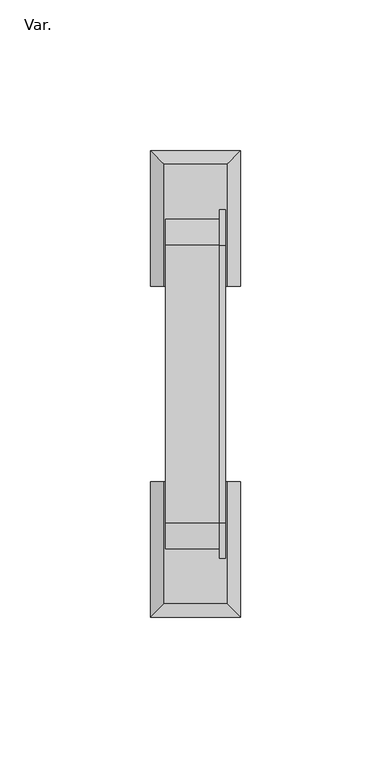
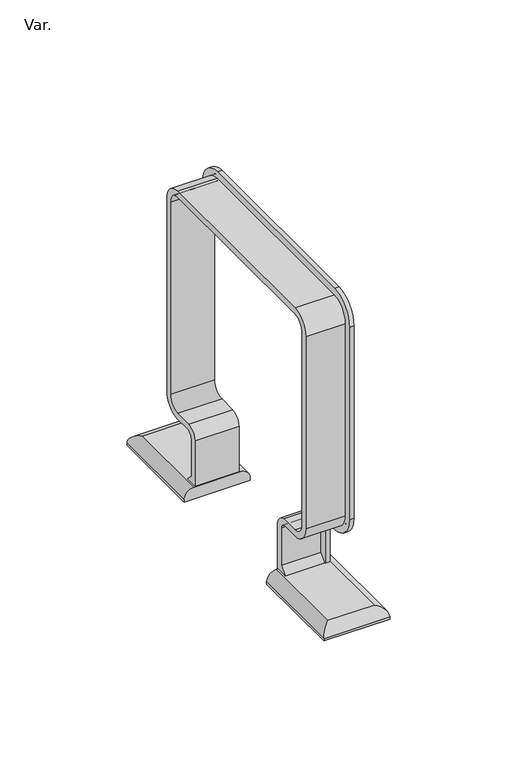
"""IFC4 building model written with IfcOpenShell, lengths in millimetres: pipe fitting geometry, PavcoWavin_UnionesDeTuberia_ZBajante Rainmax_Soporte_NoUsarUnion : Var.."""

from ifc_helpers import new_model, si_unit, point, frame, frame_2d, origin, place, context, project, spatial, polyline, circle_curve, ellipse_curve, trimmed, segment, composite_curve, outline, extrude, source, transform, mapped, element, save
from ifc_brep_helpers import plane_surface, cylinder_surface, advanced_brep


def var_3e40efbc(model_context):
    return source(origin(), model_context, "Body", "SolidModel", [
        advanced_brep(
        [(25.0, 32.5, -84.425), (25.0, 77.5, -84.425), (25.0, 77.5, -83.425), (25.0, 32.5, -83.425), (-5.0, 77.5, -83.425), (-5.0, 77.5, -84.425), (-5.0, 32.5, -84.425), (-5.0, 32.5, -83.425), (20.5, 73.0, -78.925), (-0.5, 73.0, -78.925), (-0.5, 32.5, -78.925), (20.5, 32.5, -78.925)],
        [
            (0, 1),
            (1, 2),
            (2, 3),
            (3, 0),
            (4, 5),
            (5, 6),
            (6, 7),
            (7, 4),
            (8, 9),
            (9, 10),
            (10, 11),
            (11, 8),
            (6, 0),
            (3, 11, circle_curve(frame((20.5, 32.5, -83.425), z_axis=(0.0, -1.0, 0.0), x_axis=(-1.0, 0.0, 0.0)), 4.5)),
            (10, 7, circle_curve(frame((-0.5, 32.5, -83.425), z_axis=(0.0, -1.0, 0.0), x_axis=(1.0, 0.0, 0.0)), 4.5)),
            (5, 1),
            (2, 8, ellipse_curve(frame((20.5, 73.0, -83.425), z_axis=(0.7071067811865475, -0.7071067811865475, 0.0), x_axis=(0.7071067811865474, 0.7071067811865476, 0.0)), 6.363961, 4.5)),
            (9, 4, ellipse_curve(frame((-0.5, 73.0, -83.425), z_axis=(-0.7071067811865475, -0.7071067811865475, 0.0), x_axis=(-0.7071067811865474, 0.7071067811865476, 0.0)), 6.363961, 4.5)),
            (4, 2),
        ],
        [
            plane_surface(frame((25.0, 32.5, -78.925), z_axis=(1.0, 0.0, 0.0), x_axis=(0.0, -1.0, 0.0))),
            plane_surface(frame((-5.0, 32.5, -78.925), z_axis=(-1.0, 0.0, 0.0), x_axis=(0.0, 1.0, 0.0))),
            plane_surface(frame((25.0, 73.0, -78.925), z_axis=(0.0, 0.0, 1.0), x_axis=(-1.0, 0.0, 0.0))),
            plane_surface(frame((25.0, 32.5, -78.925), z_axis=(0.0, -1.0, 0.0), x_axis=(-1.0, 0.0, 0.0))),
            plane_surface(frame((25.0, 32.5, -84.425), z_axis=(0.0, 0.0, -1.0), x_axis=(-1.0, 0.0, 0.0))),
            cylinder_surface(frame((20.5, 77.5, -83.425), z_axis=(0.0, 1.0, 0.0), x_axis=(-1.0, 0.0, 0.0)), 4.5),
            cylinder_surface(frame((-0.5, 0.0, -83.425), z_axis=(0.0, 1.0, 0.0), x_axis=(1.0, 0.0, 0.0)), 4.5),
            plane_surface(frame((25.0, 77.5, -84.425), z_axis=(0.0, 1.0, 0.0), x_axis=(-1.0, 0.0, 0.0))),
            cylinder_surface(frame((-5.0, 73.0, -83.425), z_axis=(1.0, 0.0, 0.0), x_axis=(0.0, -1.0, 0.0)), 4.5),
        ],
        [
            (0, [[1, 2, 3, 4]]),
            (1, [[5, 6, 7, 8]]),
            (2, [[9, 10, 11, 12]]),
            (3, [[13, -4, 14, -11, 15, -7]]),
            (4, [[-1, -13, -6, 16]]),
            (5, [[-3, 17, -12, -14]]),
            (6, [[-8, -15, -10, 18]]),
            (7, [[-2, -16, -5, 19]]),
            (8, [[-19, -18, -9, -17]]),
        ],
    ),
        advanced_brep(
        [(25.0, -77.5, -83.425), (25.0, -77.5, -84.425), (25.0, -32.5, -84.425), (25.0, -32.5, -83.425), (-5.0, -32.5, -84.425), (-5.0, -77.5, -84.425), (-5.0, -77.5, -83.425), (-5.0, -32.5, -83.425), (20.5, -73.0, -78.925), (-0.5, -73.0, -78.925), (-0.5, -32.5, -78.925), (20.5, -32.5, -78.925)],
        [
            (0, 1),
            (1, 2),
            (2, 3),
            (3, 0),
            (4, 5),
            (5, 6),
            (6, 7),
            (7, 4),
            (6, 0),
            (0, 8, ellipse_curve(frame((20.5, -73.0, -83.425), z_axis=(-0.7071067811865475, -0.7071067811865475, 0.0), x_axis=(0.7071067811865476, -0.7071067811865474, 0.0)), 6.363961, 4.5)),
            (8, 9),
            (9, 6, ellipse_curve(frame((-0.5, -73.0, -83.425), z_axis=(0.7071067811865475, -0.7071067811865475, 0.0), x_axis=(0.7071067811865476, 0.7071067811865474, 0.0)), 6.363961, 4.5)),
            (5, 1),
            (4, 2),
            (7, 10, circle_curve(frame((-0.5, -32.5, -83.425), z_axis=(0.0, 1.0, 0.0), x_axis=(1.0, 0.0, 0.0)), 4.5)),
            (10, 11),
            (11, 3, circle_curve(frame((20.5, -32.5, -83.425), z_axis=(0.0, 1.0, 0.0), x_axis=(-1.0, 0.0, 0.0)), 4.5)),
            (8, 11),
            (10, 9),
        ],
        [
            plane_surface(frame((25.0, 32.5, -78.925), z_axis=(1.0, 0.0, 0.0), x_axis=(0.0, -1.0, 0.0))),
            plane_surface(frame((-5.0, 32.5, -78.925), z_axis=(-1.0, 0.0, 0.0), x_axis=(0.0, 1.0, 0.0))),
            cylinder_surface(frame((0.0, -73.0, -83.425), z_axis=(1.0, 0.0, 0.0), x_axis=(0.0, 1.0, 0.0)), 4.5),
            plane_surface(frame((25.0, -77.5, -83.425), z_axis=(0.0, -1.0, 0.0), x_axis=(-1.0, 0.0, 0.0))),
            plane_surface(frame((25.0, -77.5, -84.425), z_axis=(0.0, 0.0, -1.0), x_axis=(-1.0, 0.0, 0.0))),
            plane_surface(frame((25.0, -32.5, -84.425), z_axis=(0.0, 1.0, 0.0), x_axis=(-1.0, 0.0, 0.0))),
            plane_surface(frame((25.0, -32.5, -78.925), z_axis=(0.0, 0.0, 1.0), x_axis=(-1.0, 0.0, 0.0))),
            cylinder_surface(frame((20.5, 77.5, -83.425), z_axis=(0.0, 1.0, 0.0), x_axis=(-1.0, 0.0, 0.0)), 4.5),
            cylinder_surface(frame((-0.5, 0.0, -83.425), z_axis=(0.0, 1.0, 0.0), x_axis=(1.0, 0.0, 0.0)), 4.5),
        ],
        [
            (0, [[1, 2, 3, 4]]),
            (1, [[5, 6, 7, 8]]),
            (2, [[9, 10, 11, 12]]),
            (3, [[-1, -9, -6, 13]]),
            (4, [[-2, -13, -5, 14]]),
            (5, [[-14, -8, 15, 16, 17, -3]]),
            (6, [[-11, 18, -16, 19]]),
            (7, [[-4, -17, -18, -10]]),
            (8, [[-7, -12, -19, -15]]),
        ],
    ),
        extrude(outline(composite_curve([segment(trimmed(circle_curve(frame_2d((46.125, 46.125)), 8.6), [point((54.725, 46.125))], [point((46.125, 54.725))], True, "CARTESIAN"), True, "CONTINUOUS"), segment(polyline([(46.125, 54.725), (-46.125, 54.725)]), True, "CONTINUOUS"), segment(trimmed(circle_curve(frame_2d((-46.125, 46.125)), 8.6), [point((-46.125, 54.725))], [point((-54.725, 46.125))], True, "CARTESIAN"), True, "CONTINUOUS"), segment(polyline([(-54.725, 46.125), (-54.725, -46.125)]), True, "CONTINUOUS"), segment(trimmed(circle_curve(frame_2d((-46.125, -46.125)), 8.6), [point((-54.725, -46.125))], [point((-46.125, -54.725))], True, "CARTESIAN"), True, "CONTINUOUS"), segment(polyline([(-46.125, -54.725), (-38.0764961, -54.725)]), True, "CONTINUOUS"), segment(trimmed(circle_curve(frame_2d((-38.7722672, -58.1551461)), 3.5), [point((-38.0764961, -54.725))], [point((-35.3421211, -57.459375))], False, "CARTESIAN"), True, "CONTINUOUS"), segment(polyline([(-35.3421211, -57.459375), (-35.3421211, -75.425), (-38.8421211, -78.925), (-38.8421211, -57.825), (-46.125, -57.825)]), True, "CONTINUOUS"), segment(trimmed(circle_curve(frame_2d((-46.125, -46.125)), 11.7), [point((-46.125, -57.825))], [point((-57.825, -46.125))], False, "CARTESIAN"), True, "CONTINUOUS"), segment(polyline([(-57.825, -46.125), (-57.825, 46.125)]), True, "CONTINUOUS"), segment(trimmed(circle_curve(frame_2d((-46.125, 46.125)), 11.7), [point((-57.825, 46.125))], [point((-46.125, 57.825))], False, "CARTESIAN"), True, "CONTINUOUS"), segment(polyline([(-46.125, 57.825), (46.125, 57.825)]), True, "CONTINUOUS"), segment(trimmed(circle_curve(frame_2d((46.125, 46.125)), 11.7), [point((46.125, 57.825))], [point((57.825, 46.125))], False, "CARTESIAN"), True, "CONTINUOUS"), segment(polyline([(57.825, 46.125), (57.825, -46.125)]), True, "CONTINUOUS"), segment(trimmed(circle_curve(frame_2d((46.125, -46.125)), 11.7), [point((57.825, -46.125))], [point((46.125, -57.825))], False, "CARTESIAN"), True, "CONTINUOUS"), segment(polyline([(46.125, -57.825), (38.8421211, -57.825), (38.8421211, -78.925), (35.3421211, -75.425), (35.3421211, -57.459375)]), True, "CONTINUOUS"), segment(trimmed(circle_curve(frame_2d((38.7722672, -58.1551461)), 3.5), [point((35.3421211, -57.459375))], [point((38.0764961, -54.725))], False, "CARTESIAN"), True, "CONTINUOUS"), segment(polyline([(38.0764961, -54.725), (46.125, -54.725)]), True, "CONTINUOUS"), segment(trimmed(circle_curve(frame_2d((46.125, -46.125)), 8.6), [point((46.125, -54.725))], [point((54.725, -46.125))], True, "CARTESIAN"), True, "CONTINUOUS"), segment(polyline([(54.725, -46.125), (54.725, 46.125)]), True, "CONTINUOUS")], self_intersect=False)), frame((18.0, 0.0, 0.0), z_axis=(1.0, 0.0, 0.0), x_axis=(0.0, 1.0, 0.0)), (0.0, 0.0, 1.0), 2.0),
        extrude(outline(composite_curve([segment(polyline([(54.725, 46.125), (54.725, -46.125)]), True, "CONTINUOUS"), segment(trimmed(circle_curve(frame_2d((46.125, -46.125)), 8.6), [point((54.725, -46.125))], [point((46.125, -54.725))], False, "CARTESIAN"), True, "CONTINUOUS"), segment(polyline([(46.125, -54.725), (38.0764961, -54.725)]), True, "CONTINUOUS"), segment(trimmed(circle_curve(frame_2d((38.7722672, -58.1551461)), 3.5), [point((38.0764961, -54.725))], [point((35.3421211, -57.459375))], True, "CARTESIAN"), True, "CONTINUOUS"), segment(polyline([(35.3421211, -57.459375), (35.3421211, -75.425), (38.8421211, -78.925), (32.5, -78.925), (32.5, -56.825)]), True, "CONTINUOUS"), segment(trimmed(circle_curve(frame_2d((38.7722672, -58.0972672)), 6.4), [point((32.5, -56.825))], [point((37.5, -51.825))], False, "CARTESIAN"), True, "CONTINUOUS"), segment(polyline([(37.5, -51.825), (46.125, -51.825)]), True, "CONTINUOUS"), segment(trimmed(circle_curve(frame_2d((46.125, -46.125)), 5.7), [point((46.125, -51.825))], [point((51.825, -46.125))], True, "CARTESIAN"), True, "CONTINUOUS"), segment(polyline([(51.825, -46.125), (51.825, 46.125)]), True, "CONTINUOUS"), segment(trimmed(circle_curve(frame_2d((46.125, 46.125)), 5.7), [point((51.825, 46.125))], [point((46.125, 51.825))], True, "CARTESIAN"), True, "CONTINUOUS"), segment(polyline([(46.125, 51.825), (-46.125, 51.825)]), True, "CONTINUOUS"), segment(trimmed(circle_curve(frame_2d((-46.125, 46.125)), 5.7), [point((-46.125, 51.825))], [point((-51.825, 46.125))], True, "CARTESIAN"), True, "CONTINUOUS"), segment(polyline([(-51.825, 46.125), (-51.825, -46.125)]), True, "CONTINUOUS"), segment(trimmed(circle_curve(frame_2d((-46.125, -46.125)), 5.7), [point((-51.825, -46.125))], [point((-46.125, -51.825))], True, "CARTESIAN"), True, "CONTINUOUS"), segment(polyline([(-46.125, -51.825), (-37.5, -51.825)]), True, "CONTINUOUS"), segment(trimmed(circle_curve(frame_2d((-38.7722672, -58.0972672)), 6.4), [point((-37.5, -51.825))], [point((-32.5, -56.825))], False, "CARTESIAN"), True, "CONTINUOUS"), segment(polyline([(-32.5, -56.825), (-32.5, -78.925), (-38.8421211, -78.925), (-35.3421211, -75.425), (-35.3421211, -57.459375)]), True, "CONTINUOUS"), segment(trimmed(circle_curve(frame_2d((-38.7722672, -58.1551461)), 3.5), [point((-35.3421211, -57.459375))], [point((-38.0764961, -54.725))], True, "CARTESIAN"), True, "CONTINUOUS"), segment(polyline([(-38.0764961, -54.725), (-46.125, -54.725)]), True, "CONTINUOUS"), segment(trimmed(circle_curve(frame_2d((-46.125, -46.125)), 8.6), [point((-46.125, -54.725))], [point((-54.725, -46.125))], False, "CARTESIAN"), True, "CONTINUOUS"), segment(polyline([(-54.725, -46.125), (-54.725, 46.125)]), True, "CONTINUOUS"), segment(trimmed(circle_curve(frame_2d((-46.125, 46.125)), 8.6), [point((-54.725, 46.125))], [point((-46.125, 54.725))], False, "CARTESIAN"), True, "CONTINUOUS"), segment(polyline([(-46.125, 54.725), (46.125, 54.725)]), True, "CONTINUOUS"), segment(trimmed(circle_curve(frame_2d((46.125, 46.125)), 8.6), [point((46.125, 54.725))], [point((54.725, 46.125))], False, "CARTESIAN"), True, "CONTINUOUS")], self_intersect=False)), frame((0.0, 0.0, 0.0), z_axis=(1.0, 0.0, 0.0), x_axis=(0.0, 1.0, 0.0)), (0.0, 0.0, 1.0), 20.0),
    ])


if __name__ == "__main__":
    model = new_model("IFC4")
    model_context = context("Model", 3, world=origin())
    ifc_project = project(units=[si_unit("LENGTHUNIT", "METRE", prefix="MILLI")], contexts=[model_context])
    site = spatial("IfcSite", under=ifc_project)
    building = spatial("IfcBuilding", under=site)
    placement = place(None, origin())
    var_shape = var_3e40efbc(model_context)
    element("IfcPipeFitting", 1, ObjectType="PavcoWavin_UnionesDeTuberia_ZBajante Rainmax_Soporte_NoUsarUnion : Var.", at=placement, inside=building, context=model_context, shape_type="MappedRepresentation", body=[
        mapped(var_shape, transform((0.0, 0.0, 0.0), x_axis=(1.0, 0.0, 0.0), y_axis=(0.0, 1.0, 0.0), z_axis=(0.0, 0.0, 1.0))),
    ])
    save(model, "model.ifc")
